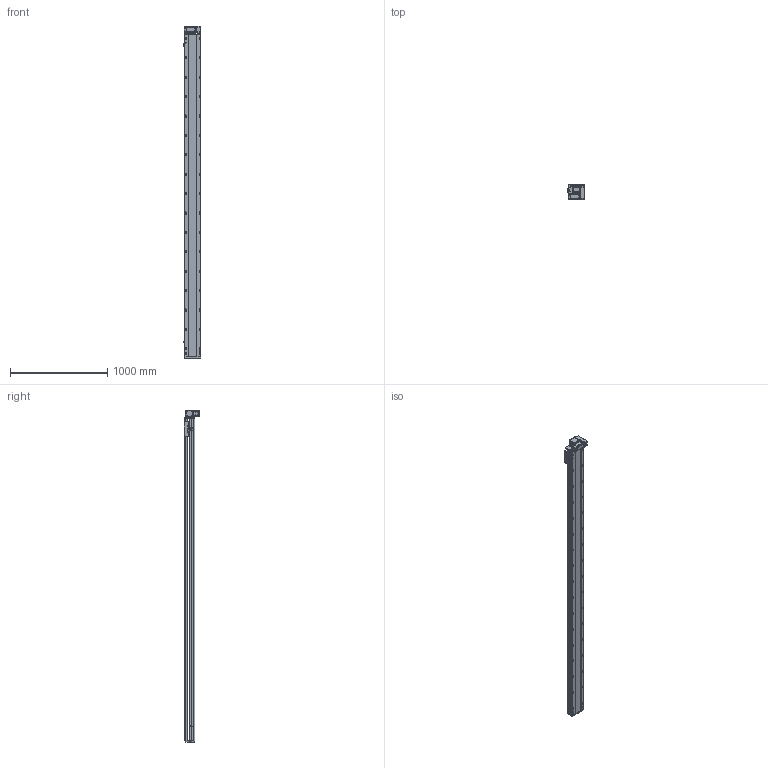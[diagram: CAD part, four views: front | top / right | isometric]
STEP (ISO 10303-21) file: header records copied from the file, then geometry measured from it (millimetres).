
FILE_DESCRIPTION (( 'STEP AP214' ), '1' );
FILE_NAME ('RTB17S-XX-3050-RM-M40-C4.STEP', '2025-12-11T08:35:48', ( '' ), ( '' ), 'SwSTEP 2.0', 'SolidWorks 2018', '' );
FILE_SCHEMA (( 'AUTOMOTIVE_DESIGN' ));
Length unit declared in the file: millimetre
Products named in the file (14): RTB17S-XX-3050-RM-M40-C4; RTB14-L-018P^RTB17S-RM-々湍釱蚾饜-400W_RTB17S-XX-XX-RM-M40-C4; RTB14-L-017P^RTB17S-RM-々湍釱蚾饜-400W_RTB17S-XX-XX-RM-M40-C4; RTB17S-L-001耜醱啣^RTB17S-XX-XX-RM-M40-C4; RTB17S-RM-々湍釱蚾饜-400W^RTB17S-XX-XX-RM-M40-C4; RTB17S-L-014-T20--々湍釱^RTB17S-RM-々湍釱蚾饜-400W_RTB17S-XX-XX-RM-M40-C4; 400W侜督萇儂^RTB17S-XX-XX-RM-M40-C4; RTB17-R-011菁釱^RTB17S-XX-XX-RM-M40-C4; RTB14-L-008-M20--萇儂啣^RTB17S-RM-々湍釱蚾饜-400W_RTB17S-XX-XX-RM-M40-C4; RTH13-BL-012覜茼え俋离^RTB17S-XX-XX-RM-M40-C4; RTB17S-L-004佪裝蹟譫蟀諉釱^RTB17S-XX-XX-RM-M40-C4; OMRON EE-SX672 传感器^RTB17S-XX-XX-RM-M40-C4; RTB17S-L-007奻裔^RTB17S-XX-XX-RM-M40-C4; RTB14-L-005P--轴承塑胶压盖^RTB17S-RM-皮带座装配-400W_RTB17S-XX-XX-RM-M40-C4
Assembly tree (16 placements, depth 3):
  RTB17S-XX-3050-RM-M40-C4
    RTB17-R-011菁釱^RTB17S-XX-XX-RM-M40-C4
    RTB17S-L-007奻裔^RTB17S-XX-XX-RM-M40-C4
    OMRON EE-SX672 传感器^RTB17S-XX-XX-RM-M40-C4  x3
    RTB17S-L-001耜醱啣^RTB17S-XX-XX-RM-M40-C4
    400W侜督萇儂^RTB17S-XX-XX-RM-M40-C4
    RTB17S-L-004佪裝蹟譫蟀諉釱^RTB17S-XX-XX-RM-M40-C4
    RTH13-BL-012覜茼え俋离^RTB17S-XX-XX-RM-M40-C4
    RTB17S-RM-々湍釱蚾饜-400W^RTB17S-XX-XX-RM-M40-C4
      RTB17S-L-014-T20--々湍釱^RTB17S-RM-々湍釱蚾饜-400W_RTB17S-XX-XX-RM-M40-C4
      RTB14-L-005P--轴承塑胶压盖^RTB17S-RM-皮带座装配-400W_RTB17S-XX-XX-RM-M40-C4
      RTB14-L-008-M20--萇儂啣^RTB17S-RM-々湍釱蚾饜-400W_RTB17S-XX-XX-RM-M40-C4
      RTB14-L-017P^RTB17S-RM-々湍釱蚾饜-400W_RTB17S-XX-XX-RM-M40-C4  x2
      RTB14-L-018P^RTB17S-RM-々湍釱蚾饜-400W_RTB17S-XX-XX-RM-M40-C4
Bounding box: 183.5 x 156.5 x 3422.5 mm (x, y, z)
Volume: 29086677.9 mm3; surface area: 3322910.8 mm2
Topology: 15 solids, 15 shells, 2381 faces, 6681 edges, 4365 vertices
Faces by surface type: plane 1090, cylinder 843, bspline 301, cone 139, torus 8
Entity records: 71081 total; most frequent: CARTESIAN_POINT 20286, ORIENTED_EDGE 10206, DIRECTION 9386, EDGE_CURVE 5103, VERTEX_POINT 3353, AXIS2_PLACEMENT_3D 3283, LINE 2820, VECTOR 2820
